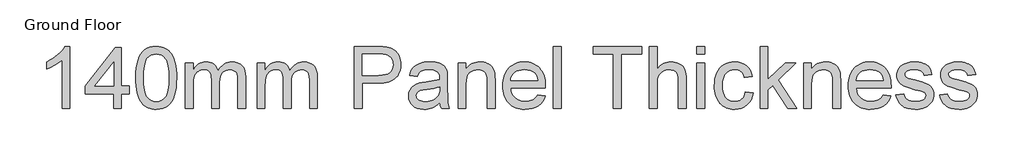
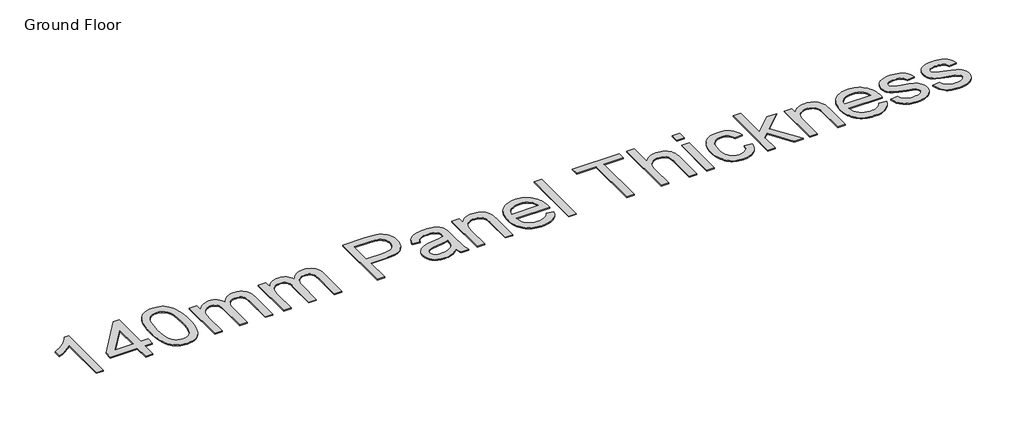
# One storey, part 6 of 6: 1 proxy.
"""IFC4 building model written with IfcOpenShell, lengths in millimetres."""

from ifc_helpers import new_model, si_unit, origin, origin_with_axes, place, context, project, spatial, polyline, outline, extrude, element, save

model = new_model("IFC4")

# Units and contexts
model_context = context("Model", 3, world=origin())
ifc_project = project(units=[si_unit("LENGTHUNIT", "METRE", prefix="MILLI")], contexts=[model_context])

# Site, building, storey
site = spatial("IfcSite", under=ifc_project)
building = spatial("IfcBuilding", under=site)
storey = spatial("IfcBuildingStorey", under=building, Name="Ground Floor", Elevation=0.0)

# Proxy
placement = place(None, origin())
element("IfcBuildingElementProxy", 1, Name="1200mm Arial", ObjectType="1200mm Arial", at=placement, inside=storey, context=model_context, shape_type="SweptSolid", body=[
    extrude(outline(polyline([(24410.8175764, 23010.3942503), (24260.1331111, 23010.3942503), (24260.1331111, 23949.8177131), (24197.22529, 23898.9396332), (24117.394897, 23848.1351297), (24033.5913785, 23803.7317729), (23958.7641807, 23772.0571331), (23958.7641807, 23914.5010416), (24019.9153653, 23945.1640059), (24077.1118185, 23978.8803908), (24130.3535403, 24015.6501962), (24179.6405306, 24055.4734222), (24223.5012615, 24096.5106587), (24260.4642049, 24136.9224959), (24290.529361, 24176.7089337), (24313.6967296, 24215.8699721), (24410.8175764, 24215.8699721), (24410.8175764, 23010.3942503)])), origin_with_axes(), (0.0, 0.0, 1.0), 20.0),
    extrude(outline(polyline([(25258.4176932, 23010.3942503), (25258.4176932, 23292.9276226), (24712.1865068, 23292.9276226), (24712.1865068, 23443.6120878), (25296.0888096, 24197.0344139), (25409.1021585, 24197.0344139), (25409.1021585, 23443.6120878), (25559.7866237, 23443.6120878), (25559.7866237, 23292.9276226), (25409.1021585, 23292.9276226), (25409.1021585, 23010.3942503), (25258.4176932, 23010.3942503)]), holes=[polyline([(25258.4176932, 23443.6120878), (25258.4176932, 23909.2035409), (24897.5990324, 23443.6120878), (25258.4176932, 23443.6120878)])]), origin_with_axes(), (0.0, 0.0, 1.0), 20.0),
    extrude(outline(polyline([(25691.6355308, 23603.4200265), (25694.4038428, 23704.7807132), (25702.7087788, 23796.374133), (25716.5503389, 23878.2002857), (25735.928523, 23950.2591715), (25760.7605577, 24013.1394016), (25790.9636695, 24067.429587), (25826.5378584, 24113.1297279), (25867.4831245, 24150.2398241), (25913.9374234, 24178.9530138), (25966.038711, 24199.4624351), (26023.7869872, 24211.7680878), (26087.182252, 24215.8699721), (26134.8229704, 24213.4419509), (26180.0356676, 24206.1578874), (26222.8203436, 24194.0177815), (26263.1769985, 24177.0216334), (26300.1307449, 24155.4545514), (26332.7066956, 24129.6016442), (26360.9048505, 24099.4629117), (26384.7252097, 24065.038354), (26405.3633896, 24026.4659268), (26424.0150068, 23983.8835859), (26455.3585528, 23886.6891628), (26467.3331117, 23829.5294978), (26475.8863681, 23763.2647534), (26481.0183219, 23687.8949296), (26482.7289732, 23603.4200265), (26479.9882523, 23502.7031333), (26471.7660897, 23411.569566), (26458.0624854, 23330.0193247), (26438.8774394, 23258.0524094), (26414.2385427, 23195.1445882), (26384.1733867, 23140.7716294), (26348.6819712, 23094.9335328), (26307.7642963, 23057.6302984), (26261.2548151, 23028.7239707), (26208.9879806, 23008.0765937), (26150.9637929, 22995.6881675), (26087.182252, 22991.5586921), (26044.5079405, 22993.3521168), (26004.1880739, 22998.732391), (25966.222652, 23007.6995146), (25930.6116748, 23020.2534877), (25897.3551425, 23036.3943103), (25866.4530549, 23056.1219823), (25837.9054121, 23079.4365037), (25811.712214, 23106.3378746), (25783.5692414, 23148.9340111), (25759.1786651, 23197.1127569), (25738.5404852, 23250.874112), (25721.6547016, 23310.2180763), (25708.5213143, 23375.14465), (25699.1403235, 23445.6538329), (25693.5117289, 23521.745625), (25691.6355308, 23603.4200265)]), holes=[polyline([(25842.319996, 23603.7143321), (25846.7345799, 23472.7207507), (25859.9783318, 23366.6879626), (25869.9111456, 23323.0318661), (25882.0512515, 23285.6159679), (25896.3986493, 23254.4402681), (25912.9533391, 23229.5047666), (25950.3301498, 23191.3278125), (25991.8272388, 23164.0585596), (26037.4446062, 23147.6970079), (26087.182252, 23142.2431573), (26136.9198977, 23147.715402), (26182.5372651, 23164.132136), (26224.0343542, 23191.4933594), (26261.4111649, 23229.7990722), (26277.9658547, 23254.7943545), (26292.3132525, 23286.002244), (26304.4533583, 23323.4227407), (26314.3861722, 23367.0558446), (26327.629924, 23472.9598739), (26332.044508, 23603.7143321), (26327.7770768, 23731.2406257), (26314.9747834, 23835.4064126), (26305.3730633, 23878.7291161), (26293.6376277, 23916.2116929), (26279.7684765, 23947.854143), (26263.7656097, 23973.6564664), (26227.0141983, 24013.7004216), (26185.0388627, 24042.3032467), (26137.8396027, 24059.4649418), (26085.4164184, 24065.1855068), (26035.9362901, 24060.1455235), (25991.0914748, 24045.0255735), (25950.8819728, 24019.8256568), (25915.3077838, 23984.5457735), (25898.2012711, 23955.9981307), (25883.3756267, 23922.0058343), (25870.8308506, 23882.5688844), (25860.566943, 23837.687281), (25846.8817327, 23731.5901136), (25842.319996, 23603.7143321)])]), origin_with_axes(), (0.0, 0.0, 1.0), 20.0),
    extrude(outline(polyline([(26652.2489966, 23010.3942503), (26652.2489966, 23895.6654835), (26802.9334618, 23895.6654835), (26802.9334618, 23749.9842134), (26823.9763119, 23785.2548997), (26848.2565236, 23816.9019483), (26875.7740968, 23844.9253593), (26906.5290316, 23869.3251326), (26940.0246873, 23889.0895928), (26975.7644231, 23903.2070644), (27013.7482391, 23911.6775473), (27053.9761353, 23914.5010416), (27097.9564278, 23911.622365), (27137.7796538, 23902.9863352), (27173.4458132, 23888.5929521), (27204.9549061, 23868.4422158), (27232.214962, 23843.1043434), (27255.1340103, 23813.1495519), (27273.712051, 23778.5778414), (27287.9490842, 23739.3892119), (27314.4457849, 23780.431047), (27342.8738661, 23816.0006374), (27373.2333278, 23846.0979831), (27405.5241699, 23870.7230842), (27439.7463925, 23889.8759406), (27475.8999956, 23903.5565523), (27513.9849791, 23911.7649193), (27554.0013432, 23914.5010416), (27614.3247933, 23909.9485019), (27667.2722095, 23896.2908828), (27712.8435916, 23873.5281844), (27751.0389398, 23841.6604066), (27767.2142512, 23822.2201424), (27781.2328545, 23800.3196674), (27802.7999365, 23749.1380848), (27815.7401857, 23688.1156588), (27820.0536021, 23617.2523895), (27820.0536021, 23010.3942503), (27669.3691368, 23010.3942503), (27669.3691368, 23552.5051584), (27665.8742579, 23627.66345), (27655.389621, 23678.3208007), (27646.9835174, 23696.5953388), (27635.7447225, 23713.0120729), (27621.6732362, 23727.5710028), (27604.7690585, 23740.2721287), (27585.6483918, 23750.5728246), (27564.9274384, 23757.9304645), (27518.6846716, 23763.8165764), (27475.982769, 23760.0457859), (27437.0516569, 23748.7334146), (27401.8913352, 23729.8794623), (27370.501804, 23703.4839292), (27344.6856849, 23668.7742629), (27326.2455999, 23624.9779114), (27315.1815489, 23572.0948746), (27311.4935319, 23510.1251525), (27311.4935319, 23010.3942503), (27160.8090667, 23010.3942503), (27160.8090667, 23569.2805773), (27158.6293659, 23614.9347329), (27152.0902634, 23654.4820474), (27141.1917593, 23687.9225208), (27125.9338536, 23715.256153), (27105.7095409, 23736.5013382), (27079.911816, 23751.6764705), (27048.5406788, 23760.7815499), (27011.5961295, 23763.8165764), (26982.000023, 23761.7932254), (26953.5443506, 23755.7231725), (26926.2291125, 23745.6064176), (26900.0543085, 23731.4429608), (26876.2155552, 23713.3799548), (26855.9084691, 23691.5645525), (26839.1330501, 23665.9967539), (26825.8892983, 23636.6765589), (26815.8461198, 23602.040469), (26808.6724209, 23560.5249859), (26804.3682016, 23512.1301094), (26802.9334618, 23456.8558396), (26802.9334618, 23010.3942503), (26652.2489966, 23010.3942503)])), origin_with_axes(), (0.0, 0.0, 1.0), 20.0),
    extrude(outline(polyline([(28046.0802999, 23010.3942503), (28046.0802999, 23895.6654835), (28196.7647651, 23895.6654835), (28196.7647651, 23749.9842134), (28217.8076152, 23785.2548997), (28242.0878269, 23816.9019483), (28269.6054002, 23844.9253593), (28300.360335, 23869.3251326), (28333.8559906, 23889.0895928), (28369.5957265, 23903.2070644), (28407.5795425, 23911.6775473), (28447.8074386, 23914.5010416), (28491.7877312, 23911.622365), (28531.6109571, 23902.9863352), (28567.2771166, 23888.5929521), (28598.7862095, 23868.4422158), (28626.0462653, 23843.1043434), (28648.9653136, 23813.1495519), (28667.5433544, 23778.5778414), (28681.7803876, 23739.3892119), (28708.2770883, 23780.431047), (28736.7051694, 23816.0006374), (28767.0646311, 23846.0979831), (28799.3554732, 23870.7230842), (28833.5776958, 23889.8759406), (28869.7312989, 23903.5565523), (28907.8162825, 23911.7649193), (28947.8326465, 23914.5010416), (29008.1560966, 23909.9485019), (29061.1035128, 23896.2908828), (29106.6748949, 23873.5281844), (29144.8702431, 23841.6604066), (29161.0455546, 23822.2201424), (29175.0641578, 23800.3196674), (29196.6312398, 23749.1380848), (29209.571489, 23688.1156588), (29213.8849054, 23617.2523895), (29213.8849054, 23010.3942503), (29063.2004402, 23010.3942503), (29063.2004402, 23552.5051584), (29059.7055612, 23627.66345), (29049.2209243, 23678.3208007), (29040.8148208, 23696.5953388), (29029.5760258, 23713.0120729), (29015.5045395, 23727.5710028), (28998.6003618, 23740.2721287), (28979.4796951, 23750.5728246), (28958.7587417, 23757.9304645), (28912.5159749, 23763.8165764), (28869.8140724, 23760.0457859), (28830.8829602, 23748.7334146), (28795.7226385, 23729.8794623), (28764.3331073, 23703.4839292), (28738.5169883, 23668.7742629), (28720.0769033, 23624.9779114), (28709.0128523, 23572.0948746), (28705.3248353, 23510.1251525), (28705.3248353, 23010.3942503), (28554.64037, 23010.3942503), (28554.64037, 23569.2805773), (28552.4606692, 23614.9347329), (28545.9215667, 23654.4820474), (28535.0230626, 23687.9225208), (28519.7651569, 23715.256153), (28499.5408442, 23736.5013382), (28473.7431193, 23751.6764705), (28442.3719822, 23760.7815499), (28405.4274328, 23763.8165764), (28375.8313263, 23761.7932254), (28347.3756539, 23755.7231725), (28320.0604158, 23745.6064176), (28293.8856119, 23731.4429608), (28270.0468586, 23713.3799548), (28249.7397724, 23691.5645525), (28232.9643534, 23665.9967539), (28219.7206016, 23636.6765589), (28209.6774232, 23602.040469), (28202.5037242, 23560.5249859), (28198.1995049, 23512.1301094), (28196.7647651, 23456.8558396), (28196.7647651, 23010.3942503), (28046.0802999, 23010.3942503)])), origin_with_axes(), (0.0, 0.0, 1.0), 20.0),
    extrude(outline(polyline([(29929.6361152, 23010.3942503), (29929.6361152, 24215.8699721), (30376.3920101, 24215.8699721), (30480.4290384, 24213.0004925), (30556.507035, 24204.3920538), (30598.4363854, 24195.3513538), (30636.8156745, 24182.9445335), (30671.6449024, 24167.1715929), (30702.9240691, 24148.0325321), (30730.9842682, 24125.1318779), (30756.1565938, 24098.0741572), (30778.4410456, 24066.8593699), (30797.8376238, 24031.4875161), (30813.546185, 23993.126621), (30824.7665859, 23952.9447101), (30831.4988264, 23910.9417833), (30833.7429066, 23867.1178406), (30827.6820507, 23793.1183773), (30820.1059808, 23758.3397332), (30809.4994831, 23725.0418141), (30795.8625574, 23693.22462), (30779.1952037, 23662.888151), (30759.4974221, 23634.032407), (30736.7692126, 23606.657388), (30710.0862717, 23581.6873976), (30678.5242957, 23560.0467393), (30642.0832849, 23541.7354129), (30600.763239, 23526.7534187), (30554.5641582, 23515.1007565), (30503.4860424, 23506.7774264), (30447.5288917, 23501.7834283), (30386.692706, 23500.1187622), (30080.3205804, 23500.1187622), (30080.3205804, 23010.3942503), (29929.6361152, 23010.3942503)]), holes=[polyline([(30080.3205804, 23650.8032275), (30395.5218739, 23650.8032275), (30467.9946269, 23654.2613182), (30529.1366145, 23664.6355905), (30578.9478367, 23681.9260443), (30617.4282934, 23706.1326795), (30646.1414831, 23736.6117028), (30666.6509043, 23772.7193207), (30678.9565571, 23814.455533), (30683.0584413, 23861.8203399), (30680.6396172, 23896.9898586), (30673.3831449, 23929.510627), (30661.2890243, 23959.382645), (30644.3572554, 23986.6059127), (30623.4891493, 24010.2975132), (30599.5860166, 24029.5745297), (30572.6478575, 24044.4369623), (30542.674672, 24054.884811), (30484.5493167, 24062.6103329), (30391.9902067, 24065.1855068), (30080.3205804, 24065.1855068), (30080.3205804, 23650.8032275)])]), origin_with_axes(), (0.0, 0.0, 1.0), 20.0),
    extrude(outline(polyline([(31587.1652327, 23123.4075992), (31551.4346939, 23089.8751553), (31515.1707262, 23061.6770004), (31478.3733296, 23038.8131344), (31441.0425042, 23021.2835573), (31402.7551855, 23008.2789288), (31363.0883094, 22998.9899084), (31322.0418758, 22993.4164962), (31279.6158847, 22991.5586921), (31212.5234058, 22996.0284584), (31153.6898778, 23009.4377571), (31103.1153005, 23031.7865883), (31060.799674, 23063.074952), (31027.3867918, 23101.3162854), (31003.5204473, 23144.5240257), (30989.2006407, 23192.698173), (30984.4273718, 23245.8387272), (30986.2299936, 23277.7892785), (30991.6378589, 23308.30509), (31000.6509678, 23337.3861617), (31013.2693202, 23365.0324936), (31028.8215315, 23390.6370805), (31046.6362172, 23413.592917), (31066.713377, 23433.9000031), (31089.0530112, 23451.5583389), (31138.9010216, 23480.2531345), (31194.5615674, 23501.001679), (31248.7873735, 23512.5531737), (31324.9389465, 23523.6632099), (31479.0079261, 23547.5019632), (31538.4944447, 23560.9664442), (31586.2823159, 23575.4609949), (31587.1652327, 23609.0118328), (31584.5716646, 23645.5425149), (31576.7909604, 23676.2606615), (31563.8231201, 23701.1662726), (31545.6681436, 23720.2593482), (31514.2878094, 23739.3156355), (31476.0648701, 23752.9272693), (31430.9993257, 23761.0942496), (31379.0911762, 23763.8165764), (31330.8250584, 23762.0047576), (31289.3279694, 23756.5693011), (31254.599909, 23747.5102069), (31226.6408774, 23734.8274752), (31203.6666468, 23717.5278243), (31183.8929896, 23694.6179731), (31167.3199057, 23666.0979214), (31153.9473952, 23631.9676693), (31003.2629299, 23650.8032275), (31014.7316511, 23694.2133029), (31029.4193398, 23733.2087944), (31047.3259959, 23767.7897019), (31068.4516195, 23797.9560255), (31093.7067184, 23824.3147705), (31124.0018007, 23847.4729421), (31159.3368664, 23867.4305403), (31199.7119154, 23884.1875652), (31244.3084102, 23897.4497111), (31292.3078135, 23906.9226725), (31343.7101253, 23912.6064493), (31398.5153455, 23914.5010416), (31452.0881611, 23912.8271785), (31500.38187, 23907.8055893), (31543.3964723, 23899.4362739), (31581.131968, 23887.7192324), (31613.9010567, 23873.4730021), (31642.0164382, 23857.5161206), (31665.4781124, 23839.8485877), (31684.2860794, 23820.4704036), (31699.5347881, 23798.9033217), (31712.3186874, 23774.6690952), (31730.492058, 23718.199209), (31736.0102879, 23666.1071185), (31737.8496979, 23586.3503019), (31737.8496979, 23398.8776372), (31739.7626843, 23235.5748195), (31745.5016434, 23137.0928094), (31756.8324088, 23072.3823665), (31775.5208142, 23010.3942503), (31624.836349, 23010.3942503), (31611.4454444, 23035.5573787), (31600.7032901, 23062.7806464), (31587.1652327, 23123.4075992)]), holes=[polyline([(31587.1652327, 23424.7765296), (31541.6214417, 23411.7351129), (31485.9241076, 23399.6869776), (31344.0688103, 23378.570551), (31265.8938863, 23367.0190564), (31214.4271952, 23354.1431866), (31180.6924162, 23337.441344), (31155.7132287, 23314.4119311), (31140.2621849, 23286.8207814), (31135.111837, 23256.4337286), (31137.9169372, 23233.0180396), (31146.3322379, 23211.6257016), (31160.3577389, 23192.2567146), (31179.9934404, 23174.9110785), (31205.0554013, 23160.618863), (31235.3596807, 23150.4101376), (31270.9062785, 23144.2849024), (31311.6951947, 23142.2431573), (31353.3394365, 23144.4964346), (31392.6292336, 23151.2562662), (31429.5645859, 23162.5226523), (31464.1454935, 23178.2955929), (31495.3418867, 23197.2691068), (31522.1236959, 23218.1372129), (31544.4909212, 23240.8999114), (31562.4435626, 23265.5572021), (31572.8730172, 23287.6301218), (31580.3226276, 23314.4119311), (31584.7923938, 23345.9026299), (31586.2823159, 23382.1022182), (31587.1652327, 23424.7765296)])]), origin_with_axes(), (0.0, 0.0, 1.0), 20.0),
    extrude(outline(polyline([(31945.0408376, 23010.3942503), (31945.0408376, 23895.6654835), (32095.7253028, 23895.6654835), (32095.7253028, 23772.0571331), (32120.5849286, 23805.4424241), (32148.0749107, 23834.3763431), (32178.1952491, 23858.8588898), (32210.9459437, 23878.8900645), (32246.3269946, 23894.469867), (32284.3384017, 23905.5982973), (32324.9801652, 23912.2753555), (32368.2522848, 23914.5010416), (32406.1717215, 23912.7076169), (32442.5276597, 23907.3273427), (32477.3200994, 23898.3602191), (32510.5490406, 23885.806246), (32540.9544875, 23870.3368081), (32567.2764442, 23852.62329), (32589.5149108, 23832.6656918), (32607.6698873, 23810.4640134), (32635.0770959, 23759.4387806), (32652.8457963, 23699.6579564), (32658.8054846, 23642.4890944), (32660.7920474, 23553.9766863), (32660.7920474, 23010.3942503), (32510.1075822, 23010.3942503), (32510.1075822, 23533.6696002), (32505.7665746, 23611.5870068), (32500.3403152, 23642.1028183), (32492.743552, 23666.9900353), (32482.3968709, 23687.9501119), (32468.7208577, 23706.6845025), (32451.7155125, 23723.1932071), (32431.3808352, 23737.4762255), (32408.4158017, 23749.000129), (32383.5193876, 23757.2314887), (32356.6915931, 23762.1703045), (32327.9324182, 23763.8165764), (32282.177095, 23760.1193623), (32239.6775275, 23749.0277202), (32200.4337157, 23730.5416499), (32164.4456595, 23704.6611516), (32148.3393259, 23688.2122279), (32134.3805034, 23668.4431691), (32122.5691921, 23645.3539754), (32112.905392, 23618.9446467), (32100.0203251, 23556.1655842), (32095.7253028, 23480.1059817), (32095.7253028, 23010.3942503), (31945.0408376, 23010.3942503)])), origin_with_axes(), (0.0, 0.0, 1.0), 20.0),
    extrude(outline(polyline([(33487.7907726, 23274.0920644), (33635.5321818, 23255.2565063), (33612.879848, 23196.0826873), (33582.2996571, 23143.9354145), (33543.7916093, 23098.8146878), (33497.3557044, 23060.7205072), (33443.4701892, 23030.4622131), (33382.6133101, 23008.8491459), (33314.7850673, 22995.8813056), (33239.9854606, 22991.5586921), (33191.9630647, 22993.423394), (33146.4882515, 22999.0174996), (33103.5610212, 23008.3410089), (33063.1813737, 23021.3939219), (33025.349309, 23038.1762387), (32990.0648272, 23058.6879592), (32957.3279281, 23082.9290834), (32927.1386119, 23110.8996113), (32900.0303074, 23142.2362595), (32876.5364435, 23176.5757445), (32856.6570202, 23213.9180663), (32840.3920374, 23254.2632249), (32827.7414953, 23297.6112202), (32818.7053938, 23343.9620523), (32813.2837329, 23393.3157213), (32811.4765126, 23445.672227), (32813.302127, 23499.8106611), (32818.7789702, 23550.8312953), (32827.9070422, 23598.7341296), (32840.686343, 23643.519164), (32857.1168726, 23685.1863984), (32877.1986311, 23723.735833), (32900.9316183, 23759.1674677), (32928.3158343, 23791.4813024), (32958.6109166, 23820.3140538), (32991.0765027, 23845.3024383), (33025.7125925, 23866.446456), (33062.5191861, 23883.7461068), (33101.4962835, 23897.2013908), (33142.6438847, 23906.8123079), (33185.9619896, 23912.5788582), (33231.4505983, 23914.5010416), (33275.4515842, 23912.5834567), (33317.3970294, 23906.830702), (33357.286934, 23897.2427775), (33395.121298, 23883.8196832), (33430.9001213, 23866.5614191), (33464.6234039, 23845.4679852), (33496.2911459, 23820.5393815), (33525.9033473, 23791.775608), (33552.7012513, 23759.5353497), (33575.9261015, 23724.1772914), (33595.5778979, 23685.7014332), (33611.6566403, 23644.1077752), (33624.1623289, 23599.3963172), (33633.0949636, 23551.5670593), (33638.4545444, 23500.6200015), (33640.2410714, 23446.5551437), (33639.3581546, 23405.9409715), (32962.1609778, 23405.9409715), (32970.8889782, 23345.8106594), (32988.2438113, 23293.1483518), (33014.2254772, 23247.9540486), (33048.8339759, 23210.22775), (33090.156321, 23180.4844907), (33136.2795262, 23159.2393055), (33187.2035913, 23146.4921944), (33242.9285166, 23142.2431573), (33284.6095466, 23144.211326), (33323.1267915, 23150.115832), (33358.4802513, 23159.9566754), (33390.6699258, 23173.7338561), (33419.6958152, 23191.8152562), (33445.5579195, 23214.5687576), (33468.2562386, 23241.9943603), (33487.7907726, 23274.0920644)]), holes=[polyline([(32962.1609778, 23556.6254367), (33489.5566061, 23556.6254367), (33481.8126901, 23599.2629599), (33469.1759436, 23636.2351005), (33451.6463665, 23667.5418582), (33429.2239589, 23693.1832333), (33388.1315401, 23724.0853209), (33341.3737385, 23746.1582406), (33288.9505542, 23759.4019924), (33230.8619871, 23763.8165764), (33177.8777828, 23760.2941063), (33129.2897683, 23749.726696), (33085.0979436, 23732.1143455), (33045.3023088, 23707.4570547), (33011.9078206, 23676.895258), (32986.9194361, 23641.5693894), (32970.3371552, 23601.479449), (32962.1609778, 23556.6254367)])]), origin_with_axes(), (0.0, 0.0, 1.0), 20.0),
    extrude(outline(polyline([(33790.9255366, 23010.3942503), (33790.9255366, 24215.8699721), (33941.6100018, 24215.8699721), (33941.6100018, 23010.3942503), (33790.9255366, 23010.3942503)])), origin_with_axes(), (0.0, 0.0, 1.0), 20.0),
    extrude(outline(polyline([(34958.7301421, 23010.3942503), (34958.7301421, 24065.1855068), (34563.1834209, 24065.1855068), (34563.1834209, 24215.8699721), (35504.9613285, 24215.8699721), (35504.9613285, 24065.1855068), (35109.4146073, 24065.1855068), (35109.4146073, 23010.3942503), (34958.7301421, 23010.3942503)])), origin_with_axes(), (0.0, 0.0, 1.0), 20.0),
    extrude(outline(polyline([(35655.6457937, 23010.3942503), (35655.6457937, 24215.8699721), (35806.330259, 24215.8699721), (35806.330259, 23772.6457443), (35833.1534549, 23805.8930796), (35861.6781051, 23834.7074369), (35891.9042096, 23859.0888161), (35923.8317682, 23879.0372173), (35957.4607811, 23894.5526404), (35992.7912482, 23905.6350855), (36029.8231696, 23912.2845526), (36068.5565451, 23914.5010416), (36115.6638346, 23912.0822175), (36159.5705507, 23904.8257451), (36200.2766935, 23892.7316245), (36237.7822629, 23875.7998557), (36271.1307658, 23854.6006557), (36299.3657089, 23829.7042417), (36322.4870923, 23801.1106136), (36340.494916, 23768.8197715), (36354.0145793, 23730.8359555), (36363.6714817, 23685.1634058), (36369.4656231, 23631.8021224), (36371.3970035, 23570.7521053), (36371.3970035, 23010.3942503), (36220.7125383, 23010.3942503), (36220.7125383, 23555.1539087), (36217.7143001, 23606.0319887), (36208.7195853, 23649.4788523), (36193.728394, 23685.4944996), (36172.7407262, 23714.0789306), (36146.2532225, 23735.8391507), (36114.7625237, 23751.3821649), (36078.2686298, 23760.7079735), (36036.7715407, 23763.8165764), (36004.4439104, 23761.719649), (35973.0911674, 23755.4288669), (35942.7133116, 23744.94423), (35913.3103432, 23730.2657384), (35886.4733516, 23712.0003974), (35863.7934266, 23690.7552121), (35845.2705681, 23666.5301828), (35830.9047762, 23639.3253092), (35820.1534249, 23607.8897927), (35812.4738883, 23570.9728345), (35807.8661663, 23528.5744346), (35806.330259, 23480.6945929), (35806.330259, 23010.3942503), (35655.6457937, 23010.3942503)])), origin_with_axes(), (0.0, 0.0, 1.0), 20.0),
    extrude(outline(polyline([(36578.5881432, 23010.3942503), (36578.5881432, 23895.6654835), (36729.2726085, 23895.6654835), (36729.2726085, 23010.3942503), (36578.5881432, 23010.3942503)])), origin_with_axes(), (0.0, 0.0, 1.0), 20.0),
    extrude(outline(polyline([(36578.5881432, 24065.1855068), (36578.5881432, 24215.8699721), (36729.2726085, 24215.8699721), (36729.2726085, 24065.1855068), (36578.5881432, 24065.1855068)])), origin_with_axes(), (0.0, 0.0, 1.0), 20.0),
    extrude(outline(polyline([(37520.3660509, 23330.5987389), (37671.0505161, 23311.7631807), (37654.6613732, 23240.6607881), (37629.0383923, 23177.7437699), (37594.1815732, 23123.012126), (37550.0909161, 23076.4658566), (37498.624225, 23039.3189721), (37441.6393039, 23012.7854832), (37379.1361529, 22996.8653899), (37311.114772, 22991.5586921), (37267.7667767, 22993.4095984), (37226.6030807, 22998.9623173), (37187.623684, 23008.2168487), (37150.8285867, 23021.1731927), (37116.2177888, 23037.8313493), (37083.7912902, 23058.1913185), (37053.5490909, 23082.2531002), (37025.491191, 23110.0166946), (37000.2108001, 23141.2383796), (36978.301128, 23175.6744336), (36959.7621747, 23213.3248566), (36944.5939402, 23254.1896485), (36932.7964245, 23298.2688093), (36924.3696275, 23345.562339), (36919.3135494, 23396.0702377), (36917.62819, 23449.7925053), (36920.5068666, 23519.073882), (36929.1428964, 23583.8854925), (36943.5362795, 23644.2273368), (36963.6870158, 23700.0994148), (36989.733061, 23750.3796865), (37021.812371, 23793.9461118), (37059.9249457, 23830.7986907), (37104.0707851, 23860.9374231), (37152.2541295, 23884.3715062), (37202.4792189, 23901.110137), (37254.7460533, 23911.1533155), (37309.0546329, 23914.5010416), (37375.9079884, 23909.9025167), (37436.3785914, 23896.1069419), (37490.4664417, 23873.1143172), (37538.1715395, 23840.9246426), (37578.6845442, 23800.2736821), (37611.1961155, 23751.8971997), (37635.7062534, 23695.7951955), (37652.214958, 23631.9676693), (37501.5304927, 23613.1321112), (37489.7674659, 23648.3292211), (37474.1968605, 23678.8726237), (37454.8186764, 23704.7623191), (37431.6329136, 23725.9983073), (37405.2281834, 23742.5438), (37376.193097, 23754.3620091), (37344.5276542, 23761.4529346), (37310.2318552, 23763.8165764), (37259.0318786, 23759.1628691), (37212.8534911, 23745.2017474), (37171.6966929, 23721.9332112), (37135.5614839, 23689.3572606), (37119.8000397, 23669.3904653), (37106.1401214, 23646.7197373), (37085.1248624, 23593.2664834), (37072.515707, 23528.9974989), (37068.3126552, 23453.9127836), (37072.4237365, 23377.6968313), (37084.7569804, 23312.6828857), (37105.3123869, 23258.8709469), (37118.6734011, 23236.16573), (37134.0899559, 23216.2610148), (37169.507795, 23183.8782021), (37209.9840116, 23160.7476217), (37255.5186055, 23146.8692734), (37306.1115769, 23142.2431573), (37346.882099, 23145.131031), (37384.1393481, 23153.794652), (37417.8833241, 23168.2340203), (37448.114027, 23188.4491359), (37473.9853283, 23214.6607281), (37494.6510994, 23247.089526), (37510.1113403, 23285.7355296), (37520.3660509, 23330.5987389)])), origin_with_axes(), (0.0, 0.0, 1.0), 20.0),
    extrude(outline(polyline([(37802.8994232, 23010.3942503), (37802.8994232, 24215.8699721), (37953.5838884, 24215.8699721), (37953.5838884, 23568.103355), (38291.4467128, 23895.6654835), (38499.8150748, 23895.6654835), (38157.8319721, 23563.9830766), (38518.650633, 23010.3942503), (38342.6558865, 23010.3942503), (38049.8218183, 23459.2102844), (37953.5838884, 23365.9154104), (37953.5838884, 23010.3942503), (37802.8994232, 23010.3942503)])), origin_with_axes(), (0.0, 0.0, 1.0), 20.0),
    extrude(outline(polyline([(38650.4995401, 23010.3942503), (38650.4995401, 23895.6654835), (38801.1840053, 23895.6654835), (38801.1840053, 23772.0571331), (38826.0436311, 23805.4424241), (38853.5336132, 23834.3763431), (38883.6539516, 23858.8588898), (38916.4046462, 23878.8900645), (38951.7856971, 23894.469867), (38989.7971042, 23905.5982973), (39030.4388676, 23912.2753555), (39073.7109873, 23914.5010416), (39111.630424, 23912.7076169), (39147.9863621, 23907.3273427), (39182.7788018, 23898.3602191), (39216.0077431, 23885.806246), (39246.41319, 23870.3368081), (39272.7351467, 23852.62329), (39294.9736133, 23832.6656918), (39313.1285898, 23810.4640134), (39340.5357984, 23759.4387806), (39358.3044988, 23699.6579564), (39364.2641871, 23642.4890944), (39366.2507499, 23553.9766863), (39366.2507499, 23010.3942503), (39215.5662847, 23010.3942503), (39215.5662847, 23533.6696002), (39211.2252771, 23611.5870068), (39205.7990177, 23642.1028183), (39198.2022545, 23666.9900353), (39187.8555734, 23687.9501119), (39174.1795602, 23706.6845025), (39157.174215, 23723.1932071), (39136.8395377, 23737.4762255), (39113.8745041, 23749.000129), (39088.9780901, 23757.2314887), (39062.1502956, 23762.1703045), (39033.3911206, 23763.8165764), (38987.6357975, 23760.1193623), (38945.13623, 23749.0277202), (38905.8924182, 23730.5416499), (38869.904362, 23704.6611516), (38853.7980284, 23688.2122279), (38839.8392059, 23668.4431691), (38828.0278946, 23645.3539754), (38818.3640945, 23618.9446467), (38805.4790276, 23556.1655842), (38801.1840053, 23480.1059817), (38801.1840053, 23010.3942503), (38650.4995401, 23010.3942503)])), origin_with_axes(), (0.0, 0.0, 1.0), 20.0),
    extrude(outline(polyline([(40193.249475, 23274.0920644), (40340.9908843, 23255.2565063), (40318.3385505, 23196.0826873), (40287.7583596, 23143.9354145), (40249.2503118, 23098.8146878), (40202.8144069, 23060.7205072), (40148.9288917, 23030.4622131), (40088.0720126, 23008.8491459), (40020.2437698, 22995.8813056), (39945.4441631, 22991.5586921), (39897.4217671, 22993.423394), (39851.946954, 22999.0174996), (39809.0197237, 23008.3410089), (39768.6400762, 23021.3939219), (39730.8080115, 23038.1762387), (39695.5235297, 23058.6879592), (39662.7866306, 23082.9290834), (39632.5973144, 23110.8996113), (39605.4890099, 23142.2362595), (39581.995146, 23176.5757445), (39562.1157226, 23213.9180663), (39545.8507399, 23254.2632249), (39533.2001978, 23297.6112202), (39524.1640963, 23343.9620523), (39518.7424354, 23393.3157213), (39516.9352151, 23445.672227), (39518.7608295, 23499.8106611), (39524.2376727, 23550.8312953), (39533.3657447, 23598.7341296), (39546.1450455, 23643.519164), (39562.5755751, 23685.1863984), (39582.6573335, 23723.735833), (39606.3903208, 23759.1674677), (39633.7745368, 23791.4813024), (39664.0696191, 23820.3140538), (39696.5352052, 23845.3024383), (39731.171295, 23866.446456), (39767.9778886, 23883.7461068), (39806.954986, 23897.2013908), (39848.1025872, 23906.8123079), (39891.4206921, 23912.5788582), (39936.9093008, 23914.5010416), (39980.9102867, 23912.5834567), (40022.8557319, 23906.830702), (40062.7456365, 23897.2427775), (40100.5800005, 23883.8196832), (40136.3588237, 23866.5614191), (40170.0821064, 23845.4679852), (40201.7498484, 23820.5393815), (40231.3620497, 23791.775608), (40258.1599538, 23759.5353497), (40281.384804, 23724.1772914), (40301.0366004, 23685.7014332), (40317.1153428, 23644.1077752), (40329.6210314, 23599.3963172), (40338.5536661, 23551.5670593), (40343.9132469, 23500.6200015), (40345.6997738, 23446.5551437), (40344.8168571, 23405.9409715), (39667.6196803, 23405.9409715), (39676.3476807, 23345.8106594), (39693.7025138, 23293.1483518), (39719.6841797, 23247.9540486), (39754.2926784, 23210.22775), (39795.6150235, 23180.4844907), (39841.7382286, 23159.2393055), (39892.6622938, 23146.4921944), (39948.3872191, 23142.2431573), (39990.0682491, 23144.211326), (40028.585494, 23150.115832), (40063.9389537, 23159.9566754), (40096.1286283, 23173.7338561), (40125.1545177, 23191.8152562), (40151.016622, 23214.5687576), (40173.7149411, 23241.9943603), (40193.249475, 23274.0920644)]), holes=[polyline([(39667.6196803, 23556.6254367), (40195.0153086, 23556.6254367), (40187.2713926, 23599.2629599), (40174.6346461, 23636.2351005), (40157.105069, 23667.5418582), (40134.6826614, 23693.1832333), (40093.5902425, 23724.0853209), (40046.832441, 23746.1582406), (39994.4092566, 23759.4019924), (39936.3206896, 23763.8165764), (39883.3364853, 23760.2941063), (39834.7484707, 23749.726696), (39790.5566461, 23732.1143455), (39750.7610112, 23707.4570547), (39717.3665231, 23676.895258), (39692.3781386, 23641.5693894), (39675.7958577, 23601.479449), (39667.6196803, 23556.6254367)])]), origin_with_axes(), (0.0, 0.0, 1.0), 20.0),
    extrude(outline(polyline([(40439.8775646, 23274.0920644), (40590.5620298, 23292.9276226), (40599.6671092, 23258.5674442), (40614.3272067, 23228.474697), (40634.5423224, 23202.6493809), (40660.3124561, 23181.091496), (40691.7111844, 23164.0953478), (40728.8120836, 23151.955242), (40771.6151538, 23144.6711785), (40820.1203948, 23142.2431573), (40868.5704536, 23144.4688434), (40910.32506, 23151.1459016), (40945.3842142, 23162.274332), (40973.747916, 23177.8541345), (40995.6368947, 23196.4321752), (41011.2718795, 23216.5553204), (41020.6528704, 23238.2235699), (41023.7798674, 23261.4369238), (41020.6344763, 23281.7807981), (41011.1983031, 23299.8438041), (40995.4713478, 23315.6259417), (40973.4536104, 23329.1272109), (40917.0205124, 23348.2570746), (40818.3545612, 23372.0958279), (40680.8402714, 23411.8638716), (40591.4449466, 23445.8193798), (40560.7543912, 23462.8431191), (40534.0185672, 23482.8650967), (40511.2374746, 23505.8853125), (40492.4111135, 23531.9037666), (40477.6682426, 23560.1387098), (40467.1376205, 23589.8083927), (40460.8192472, 23620.9128154), (40458.7131228, 23653.4519778), (40460.4053799, 23683.2044342), (40465.4821515, 23711.8348505), (40473.9434374, 23739.3432267), (40485.7892376, 23765.7295628), (40500.5596997, 23790.4604299), (40517.7949712, 23813.0023991), (40537.495052, 23833.3554705), (40559.6599422, 23851.519644), (40601.2673959, 23875.7630675), (40655.4564138, 23896.1069419), (40718.1067176, 23909.9025167), (40785.0980289, 23914.5010416), (40835.7369855, 23912.6524346), (40883.1753688, 23907.1066135), (40927.4131787, 23897.8635784), (40968.4504153, 23884.9233292), (41005.3121912, 23868.8284919), (41037.0236192, 23850.1216925), (41063.5846992, 23828.8029308), (41084.9954313, 23804.872207), (41102.3594615, 23777.4925896), (41116.7804357, 23745.8271468), (41128.258354, 23709.8758788), (41136.7932163, 23669.6387856), (40986.108751, 23650.8032275), (40978.9258551, 23675.975553), (40967.0892519, 23698.2232166), (40950.5989415, 23717.5462184), (40929.4549238, 23733.9445584), (40903.5652284, 23747.0135663), (40872.8378847, 23756.3485719), (40837.2728928, 23761.9495753), (40796.8702527, 23763.8165764), (40750.0020865, 23762.0323487), (40710.3444075, 23756.6796657), (40677.8972155, 23747.7585273), (40652.6605106, 23735.2689336), (40633.732982, 23720.406501), (40620.2133186, 23704.366846), (40612.1015206, 23687.1499686), (40609.397588, 23668.7558688), (40613.8857483, 23645.5793031), (40627.3502294, 23624.904335), (40650.3796422, 23606.4366588), (40683.5625982, 23591.6478026), (40813.3513661, 23559.5684927), (40946.4878602, 23520.2051192), (41034.5220216, 23488.640844), (41065.4976856, 23473.2449825), (41092.9416824, 23454.722124), (41116.8540121, 23433.0722686), (41137.2346747, 23408.2954162), (41153.52265, 23380.3547787), (41165.1569181, 23349.2135678), (41172.137479, 23314.8717836), (41174.4643326, 23277.329426), (41171.7328088, 23239.6215215), (41163.5382373, 23203.0172629), (41149.8806182, 23167.5166504), (41130.7599515, 23133.1196839), (41106.4889369, 23101.1967237), (41077.380274, 23073.1181304), (41043.4339629, 23048.883904), (41004.6500036, 23028.4940444), (40962.0860568, 23012.3348278), (40916.7997832, 23000.7925302), (40868.7911828, 22993.8671516), (40818.0602556, 22991.5586921), (40736.9606698, 22996.0100643), (40666.1249916, 23009.3641807), (40605.5532211, 23031.6210414), (40579.1163013, 23046.0880008), (40555.2453583, 23062.7806464), (40514.1529394, 23102.6958429), (40481.2275009, 23151.219478), (40456.4690426, 23208.3515519), (40439.8775646, 23274.0920644)])), origin_with_axes(), (0.0, 0.0, 1.0), 20.0),
    extrude(outline(polyline([(41287.4776815, 23274.0920644), (41438.1621467, 23292.9276226), (41447.2672261, 23258.5674442), (41461.9273236, 23228.474697), (41482.1424392, 23202.6493809), (41507.912573, 23181.091496), (41539.3113013, 23164.0953478), (41576.4122005, 23151.955242), (41619.2152706, 23144.6711785), (41667.7205117, 23142.2431573), (41716.1705705, 23144.4688434), (41757.9251769, 23151.1459016), (41792.9843311, 23162.274332), (41821.3480329, 23177.8541345), (41843.2370116, 23196.4321752), (41858.8719964, 23216.5553204), (41868.2529873, 23238.2235699), (41871.3799842, 23261.4369238), (41868.2345932, 23281.7807981), (41858.79842, 23299.8438041), (41843.0714647, 23315.6259417), (41821.0537273, 23329.1272109), (41764.6206292, 23348.2570746), (41665.9546781, 23372.0958279), (41528.4403883, 23411.8638716), (41439.0450635, 23445.8193798), (41408.3545081, 23462.8431191), (41381.6186841, 23482.8650967), (41358.8375915, 23505.8853125), (41340.0112304, 23531.9037666), (41325.2683594, 23560.1387098), (41314.7377373, 23589.8083927), (41308.4193641, 23620.9128154), (41306.3132396, 23653.4519778), (41308.0054968, 23683.2044342), (41313.0822684, 23711.8348505), (41321.5435542, 23739.3432267), (41333.3893545, 23765.7295628), (41348.1598166, 23790.4604299), (41365.3950881, 23813.0023991), (41385.0951689, 23833.3554705), (41407.2600591, 23851.519644), (41448.8675128, 23875.7630675), (41503.0565307, 23896.1069419), (41565.7068344, 23909.9025167), (41632.6981458, 23914.5010416), (41683.3371024, 23912.6524346), (41730.7754857, 23907.1066135), (41775.0132956, 23897.8635784), (41816.0505322, 23884.9233292), (41852.9123081, 23868.8284919), (41884.6237361, 23850.1216925), (41911.1848161, 23828.8029308), (41932.5955482, 23804.872207), (41949.9595784, 23777.4925896), (41964.3805526, 23745.8271468), (41975.8584709, 23709.8758788), (41984.3933332, 23669.6387856), (41833.7088679, 23650.8032275), (41826.525972, 23675.975553), (41814.6893688, 23698.2232166), (41798.1990583, 23717.5462184), (41777.0550407, 23733.9445584), (41751.1653453, 23747.0135663), (41720.4380016, 23756.3485719), (41684.8730097, 23761.9495753), (41644.4703696, 23763.8165764), (41597.6022034, 23762.0323487), (41557.9445243, 23756.6796657), (41525.4973324, 23747.7585273), (41500.2606275, 23735.2689336), (41481.3330989, 23720.406501), (41467.8134355, 23704.366846), (41459.7016375, 23687.1499686), (41456.9977049, 23668.7558688), (41461.4858652, 23645.5793031), (41474.9503462, 23624.904335), (41497.9797591, 23606.4366588), (41531.1627151, 23591.6478026), (41660.951483, 23559.5684927), (41794.0879771, 23520.2051192), (41882.1221385, 23488.640844), (41913.0978025, 23473.2449825), (41940.5417993, 23454.722124), (41964.454129, 23433.0722686), (41984.8347916, 23408.2954162), (42001.1227669, 23380.3547787), (42012.757035, 23349.2135678), (42019.7375958, 23314.8717836), (42022.0644495, 23277.329426), (42019.3329257, 23239.6215215), (42011.1383542, 23203.0172629), (41997.4807351, 23167.5166504), (41978.3600684, 23133.1196839), (41954.0890538, 23101.1967237), (41924.9803909, 23073.1181304), (41891.0340798, 23048.883904), (41852.2501205, 23028.4940444), (41809.6861736, 23012.3348278), (41764.3999, 23000.7925302), (41716.3912997, 22993.8671516), (41665.6603725, 22991.5586921), (41584.5607867, 22996.0100643), (41513.7251085, 23009.3641807), (41453.153338, 23031.6210414), (41426.7164181, 23046.0880008), (41402.8454752, 23062.7806464), (41361.7530563, 23102.6958429), (41328.8276178, 23151.219478), (41304.0691595, 23208.3515519), (41287.4776815, 23274.0920644)])), origin_with_axes(), (0.0, 0.0, 1.0), 20.0),
])

save(model, "model.ifc")
